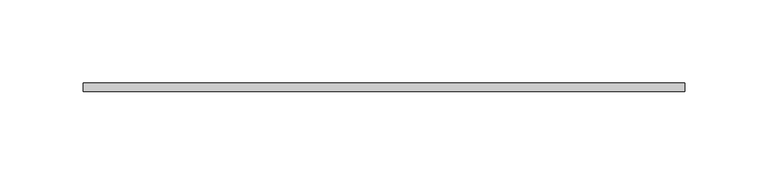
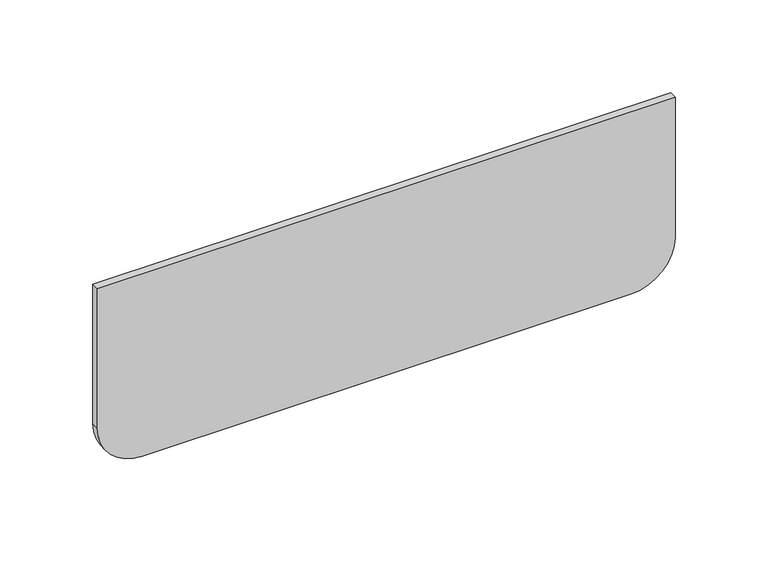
"""IFC4 building model written with IfcOpenShell, lengths in millimetres: cable carrier fitting geometry, CCT_Hyperline_FBTR-TTR Заглушка для оптического лотка : Заглушка для оптического лотка."""

from ifc_helpers import new_model, si_unit, point, frame, frame_2d, origin, place, context, project, spatial, polyline, circle_curve, trimmed, segment, composite_curve, outline, extrude, source, transform, mapped, element, save


def cable_carrier_fitting_47155b8e(model_context):
    return source(origin(), model_context, "Body", "SweptSolid", [
        extrude(outline(composite_curve([segment(trimmed(circle_curve(frame_2d((-32.0, -152.0)), 28.0), [point((-32.0, -180.0))], [point((-60.0, -152.0))], False, "CARTESIAN"), True, "CONTINUOUS"), segment(polyline([(-60.0, -152.0), (-60.0, 152.0)]), True, "CONTINUOUS"), segment(trimmed(circle_curve(frame_2d((-32.0, 152.0)), 28.0), [point((-60.0, 152.0))], [point((-32.0, 180.0))], False, "CARTESIAN"), True, "CONTINUOUS"), segment(polyline([(-32.0, 180.0), (60.0, 180.0), (60.0, -180.0), (-32.0, -180.0)]), True, "CONTINUOUS")], self_intersect=False)), frame((0.0, -2.5, 0.0), z_axis=(0.0, 1.0, 0.0), x_axis=(0.0, 0.0, 1.0)), (0.0, 0.0, 1.0), 5.0),
    ])


if __name__ == "__main__":
    model = new_model("IFC4")
    model_context = context("Model", 3, world=origin())
    ifc_project = project(units=[si_unit("LENGTHUNIT", "METRE", prefix="MILLI")], contexts=[model_context])
    site = spatial("IfcSite", under=ifc_project)
    building = spatial("IfcBuilding", under=site)
    placement = place(None, origin())
    cable_carrier_fitting_shape = cable_carrier_fitting_47155b8e(model_context)
    element("IfcCableCarrierFitting", 1, ObjectType="CCT_Hyperline_FBTR-TTR Заглушка для оптического лотка : Заглушка для оптического лотка", at=placement, inside=building, context=model_context, shape_type="MappedRepresentation", body=[
        mapped(cable_carrier_fitting_shape, transform((0.0, 0.0, 0.0), x_axis=(1.0, 0.0, 0.0), y_axis=(0.0, 1.0, 0.0), z_axis=(0.0, 0.0, 1.0))),
    ])
    save(model, "model.ifc")
